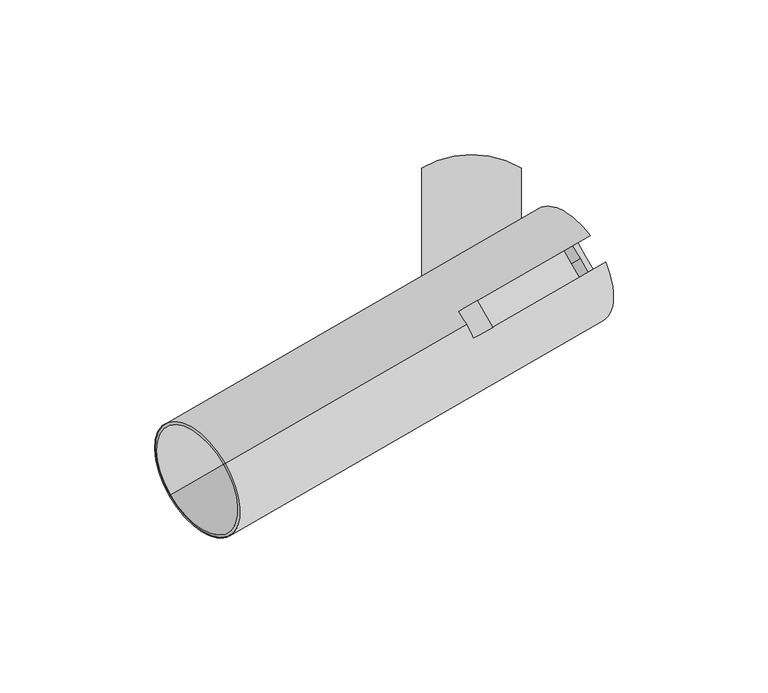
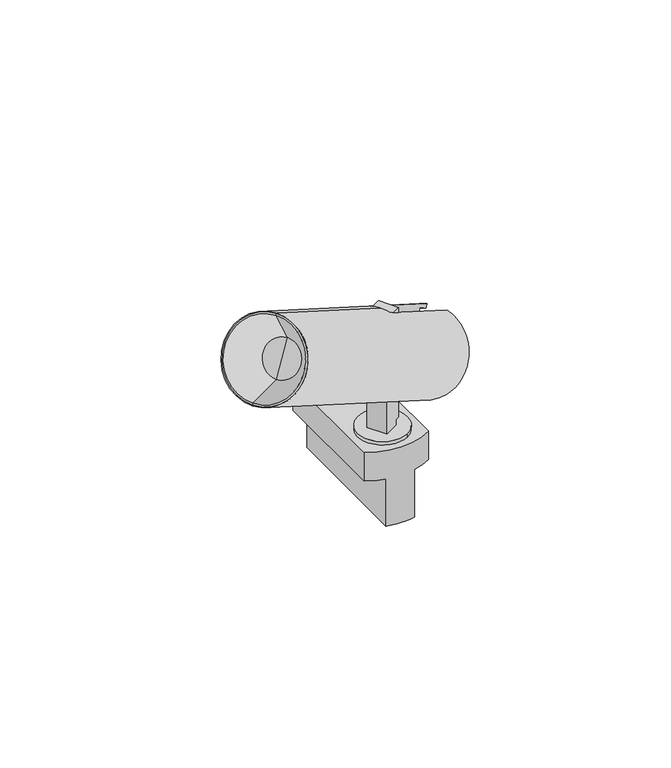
"""IFC4 building model written with IfcOpenShell, lengths in millimetres: light fixture geometry, PIPES T XS : 630lm 7,8W 840 38°."""

from ifc_helpers import new_model, si_unit, point, frame, frame_2d, origin, origin_2d, place, context, project, spatial, polyline, circle_curve, trimmed, segment, composite_curve, outline, extrude, source, transform, mapped, element, save
from ifc_brep_helpers import plane_surface, cylinder_surface, revolved_surface, advanced_brep


def light_fixture_a9e7d7d0(model_context):
    return source(origin(), model_context, "Body", "SolidModel", [
        extrude(outline(composite_curve([segment(polyline([(39.7303383, 0.0), (39.7303383, -8.0), (36.7303383, -8.0), (36.7303383, -10.0), (-21.31827, -10.0), (-21.31827, -2.0)]), True, "CONTINUOUS"), segment(trimmed(circle_curve(frame_2d((-15.691322, -2.0)), 5.626948), [point((-21.31827, -2.0))], [point((-15.691322, 3.626948))], False, "CARTESIAN"), True, "CONTINUOUS"), segment(polyline([(-15.691322, 3.626948), (-9.8735653, 3.626948)]), True, "CONTINUOUS"), segment(trimmed(circle_curve(frame_2d((-17.7182036, -2.2388678)), 9.7952104), [point((-9.8735653, 3.626948))], [point((-8.1822916, 0.0))], False, "CARTESIAN"), True, "CONTINUOUS"), segment(polyline([(-8.1822916, 0.0), (39.7303383, 0.0)]), True, "CONTINUOUS")], self_intersect=False)), frame((-1.830127, -6.830127, 56.5303383), z_axis=(-0.4999999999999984, 0.8660254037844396, 0.0), x_axis=(0.0, 0.0, -1.0)), (0.0, 0.0, 1.0), 10.0),
        extrude(outline(composite_curve([segment(trimmed(circle_curve(origin_2d(), 12.5), [point((-6.25, 10.8253175))], [point((6.25, -10.8253175))], False, "CARTESIAN"), True, "CONTINUOUS"), segment(trimmed(circle_curve(origin_2d(), 12.5), [point((6.25, -10.8253175))], [point((-6.25, 10.8253175))], False, "CARTESIAN"), True, "CONTINUOUS")], self_intersect=False)), frame((0.0, 0.0, 15.0), z_axis=(0.0, 0.0, 1.0), x_axis=(1.0, 0.0, 0.0)), (0.0, 0.0, 1.0), 1.8),
        advanced_brep(
        [(-7.1153658, -15.2862846, -25.0), (-7.1153658, 53.3498174, -25.0), (7.1153658, 53.3498174, -25.0), (7.1153658, -15.2862846, -25.0), (-16.1153658, 49.7317664, 15.0), (-16.1153658, -11.6682336, 15.0), (16.1153658, -11.6682336, 15.0), (16.1153658, 49.7317664, 15.0), (-16.1153658, 49.7317664, 0.0), (-16.1153658, -11.6682336, 0.0), (-7.1153658, -15.2862846, 0.0), (7.1153658, -15.2862846, 0.0), (16.1153658, -11.6682336, 0.0), (16.1153658, 49.7317664, 0.0), (7.1153658, 53.3498174, 0.0), (-7.1153658, 53.3498174, 0.0)],
        [
            (0, 1),
            (1, 2, circle_curve(frame((0.0, 22.6472542, -25.0), z_axis=(0.0, 0.0, -1.0), x_axis=(1.0, 0.0, 0.0)), 31.5162786)),
            (2, 3),
            (3, 0, circle_curve(frame((0.0, 15.4162786, -25.0), z_axis=(0.0, 0.0, -1.0), x_axis=(1.0, 0.0, 0.0)), 31.5162786)),
            (4, 5),
            (5, 6, circle_curve(frame((0.0, 15.4162786, 15.0), z_axis=(0.0, 0.0, 1.0), x_axis=(1.0, 0.0, 0.0)), 31.5162786)),
            (6, 7),
            (7, 4, circle_curve(frame((0.0, 22.6472542, 15.0), z_axis=(0.0, 0.0, 1.0), x_axis=(1.0, 0.0, 0.0)), 31.5162786)),
            (4, 8),
            (8, 9),
            (9, 5),
            (9, 10, circle_curve(frame((0.0, 15.4162786, 0.0), z_axis=(0.0, 0.0, 1.0), x_axis=(1.0, 0.0, 0.0)), 31.5162786)),
            (10, 0),
            (3, 11),
            (11, 12, circle_curve(frame((0.0, 15.4162786, 0.0), z_axis=(0.0, 0.0, 1.0), x_axis=(1.0, 0.0, 0.0)), 31.5162786)),
            (12, 6),
            (12, 13),
            (13, 7),
            (13, 14, circle_curve(frame((0.0, 22.6472542, 0.0), z_axis=(0.0, 0.0, 1.0), x_axis=(1.0, 0.0, 0.0)), 31.5162786)),
            (14, 2),
            (1, 15),
            (15, 8, circle_curve(frame((0.0, 22.6472542, 0.0), z_axis=(0.0, 0.0, 1.0), x_axis=(1.0, 0.0, 0.0)), 31.5162786)),
            (15, 10),
            (11, 14),
        ],
        [
            plane_surface(frame((-16.1153658, -11.6883244, -25.0), z_axis=(0.0, 0.0, -1.0), x_axis=(0.0, 1.0, 0.0))),
            plane_surface(frame((-16.1153658, -11.6883244, 15.0), z_axis=(0.0, 0.0, 1.0), x_axis=(0.0, -1.0, 0.0))),
            plane_surface(frame((-16.1153658, 49.7317664, 15.0), z_axis=(-1.0, 0.0, 0.0), x_axis=(0.0, 0.0, -1.0))),
            cylinder_surface(frame((0.0, 15.4162786, -25.0), z_axis=(0.0, 0.0, 1.0), x_axis=(1.0, 0.0, 0.0)), 31.5162786),
            plane_surface(frame((16.1153658, -11.6682336, 15.0), z_axis=(1.0, 0.0, 0.0), x_axis=(0.0, 0.0, -1.0))),
            cylinder_surface(frame((0.0, 22.6472542, -25.0), z_axis=(0.0, 0.0, 1.0), x_axis=(1.0, 0.0, 0.0)), 31.5162786),
            plane_surface(frame((-7.1153658, 58.6979838, 0.0), z_axis=(0.0, 0.0, -1.0), x_axis=(-1.0, 0.0, 0.0))),
            plane_surface(frame((-7.1153658, -21.3020162, 0.0), z_axis=(-1.0, 0.0, 0.0), x_axis=(0.0, 0.0, -1.0))),
            plane_surface(frame((7.1153658, -11.6883244, 0.0), z_axis=(0.0, 0.0, -1.0), x_axis=(0.0, -1.0, 0.0))),
            plane_surface(frame((7.1153658, 58.6979838, 0.0), z_axis=(1.0, 0.0, 0.0), x_axis=(0.0, 0.0, -1.0))),
        ],
        [
            (0, [[1, 2, 3, 4]]),
            (1, [[5, 6, 7, 8]]),
            (2, [[-5, 9, 10, 11]]),
            (3, [[-6, -11, 12, 13, -4, 14, 15, 16]]),
            (4, [[-7, -16, 17, 18]]),
            (5, [[-8, -18, 19, 20, -2, 21, 22, -9]]),
            (6, [[23, -12, -10, -22]]),
            (7, [[-23, -21, -1, -13]]),
            (8, [[24, -19, -17, -15]]),
            (9, [[-24, -14, -3, -20]]),
        ],
    ),
        advanced_brep(
        [(-8.4150635, 0.9150635, 71.169873), (29.8349365, 22.9987113, 45.669873), (33.0090507, 24.831287, 52.0181014), (37.5090507, 27.4293632, 49.0181014), (38.4035576, 27.945807, 50.8071153), (-4.3464424, 3.264083, 79.3071153), (-3.4150635, -7.7451905, 71.169873), (0.6535576, -5.396171, 79.3071153), (43.4035576, 19.285553, 50.8071153), (42.5090507, 18.7691092, 49.0181014), (38.0090507, 16.171033, 52.0181014), (34.8349365, 14.3384573, 45.669873), (32.3349365, 18.6685843, 45.669873), (-1.5849365, -0.9150635, 79.830127), (-79.5849365, -45.9483845, 131.830127), (-97.77147, -56.4483845, 95.4570601), (22.97853, 13.2666605, 14.9570601), (23.8445554, 13.7666605, 16.6891109), (19.3445554, 11.1685843, 19.6891109), (27.5717968, 15.9185843, 36.1435935), (-79.1333302, -45.6876495, 95.7333395), (-70.4730762, -40.6876495, 113.0538476), (-74.8032032, -43.1876495, 104.3935935)],
        [
            (0, 1),
            (1, 2),
            (2, 3),
            (3, 4),
            (4, 5),
            (5, 0),
            (6, 7),
            (7, 8),
            (8, 9),
            (9, 10),
            (10, 11),
            (11, 6),
            (0, 6),
            (11, 12),
            (12, 1),
            (5, 13, circle_curve(frame((-10.6782032, -6.1650635, 61.6435935), z_axis=(0.7500000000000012, 0.4330127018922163, -0.5000000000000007), x_axis=(0.43301270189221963, 0.25000000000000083, 0.8660254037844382)), 21.0)),
            (13, 7, circle_curve(frame((-10.6782032, -6.1650635, 61.6435935), z_axis=(0.7500000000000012, 0.4330127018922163, -0.5000000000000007), x_axis=(0.43301270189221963, 0.25000000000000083, 0.8660254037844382)), 21.0)),
            (14, 15, circle_curve(frame((-88.6782032, -51.1983845, 113.6435935), z_axis=(0.7500000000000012, 0.4330127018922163, -0.5000000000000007), x_axis=(0.43301270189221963, 0.25000000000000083, 0.8660254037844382)), 21.0)),
            (15, 16),
            (16, 8, circle_curve(frame((32.0717968, 18.5166605, 33.1435935), z_axis=(-0.7500000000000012, -0.4330127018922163, 0.5000000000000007), x_axis=(0.43301270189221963, 0.25000000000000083, 0.8660254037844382)), 21.0)),
            (13, 14),
            (15, 14, circle_curve(frame((-88.6782032, -51.1983845, 113.6435935), z_axis=(0.7500000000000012, 0.4330127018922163, -0.5000000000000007), x_axis=(0.43301270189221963, 0.25000000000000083, 0.8660254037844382)), 21.0)),
            (4, 16, circle_curve(frame((32.0717968, 18.5166605, 33.1435935), z_axis=(-0.7500000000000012, -0.4330127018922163, 0.5000000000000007), x_axis=(0.43301270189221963, 0.25000000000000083, 0.8660254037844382)), 21.0)),
            (16, 17),
            (17, 9, circle_curve(frame((32.0717968, 18.5166605, 33.1435935), z_axis=(-0.7500000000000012, -0.4330127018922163, 0.5000000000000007), x_axis=(0.43301270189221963, 0.25000000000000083, 0.8660254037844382)), 19.0)),
            (3, 17, circle_curve(frame((32.0717968, 18.5166605, 33.1435935), z_axis=(-0.7500000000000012, -0.4330127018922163, 0.5000000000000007), x_axis=(0.43301270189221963, 0.25000000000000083, 0.8660254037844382)), 19.0)),
            (17, 18),
            (18, 10, circle_curve(frame((27.5717968, 15.9185843, 36.1435935), z_axis=(-0.7500000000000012, -0.4330127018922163, 0.5000000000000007), x_axis=(0.43301270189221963, 0.25000000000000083, 0.8660254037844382)), 19.0)),
            (2, 18, circle_curve(frame((27.5717968, 15.9185843, 36.1435935), z_axis=(-0.7500000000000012, -0.4330127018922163, 0.5000000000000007), x_axis=(0.43301270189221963, 0.25000000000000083, 0.8660254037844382)), 19.0)),
            (18, 19),
            (19, 12),
            (20, 21, circle_curve(frame((-74.8032032, -43.1876495, 104.3935935), z_axis=(-0.7500000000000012, -0.4330127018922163, 0.5000000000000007), x_axis=(0.43301270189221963, 0.25000000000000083, 0.8660254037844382)), 10.0)),
            (21, 22),
            (22, 20),
            (21, 20, circle_curve(frame((-74.8032032, -43.1876495, 104.3935935), z_axis=(-0.7500000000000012, -0.4330127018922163, 0.5000000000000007), x_axis=(0.43301270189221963, 0.25000000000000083, 0.8660254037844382)), 10.0)),
            (14, 21),
            (20, 15),
        ],
        [
            plane_surface(frame((-8.4150635, 0.9150635, 71.169873), z_axis=(0.49999999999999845, -0.8660254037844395, 0.0), x_axis=(-0.7500000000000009, -0.433012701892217, 0.5000000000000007))),
            plane_surface(frame((-3.4150635, -7.7451905, 71.169873), z_axis=(-0.49999999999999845, 0.8660254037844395, 0.0), x_axis=(0.7500000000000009, 0.433012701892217, -0.5000000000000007))),
            plane_surface(frame((-3.4150635, -7.7451905, 71.169873), z_axis=(0.4330127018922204, 0.24999999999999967, 0.8660254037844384), x_axis=(-0.4999999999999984, 0.8660254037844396, 0.0))),
            plane_surface(frame((5.2451905, -2.7451905, 88.4903811), z_axis=(0.7500000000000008, 0.43301270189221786, -0.5000000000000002), x_axis=(-0.4999999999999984, 0.8660254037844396, 0.0))),
            cylinder_surface(frame((38.4110825, 22.1766488, 28.9174031), z_axis=(0.7500000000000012, 0.4330127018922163, -0.5000000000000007), x_axis=(0.43301270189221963, 0.25000000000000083, 0.8660254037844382)), 21.0),
            plane_surface(frame((32.0717968, 18.5166605, 33.1435935), z_axis=(0.7500000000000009, 0.433012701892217, -0.5000000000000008), x_axis=(0.43301270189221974, 0.2500000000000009, 0.8660254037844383))),
            revolved_surface(polyline([(40.29903816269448, 23.266660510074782, 49.59807622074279), (35.79903810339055, 20.668584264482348, 52.598076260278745)]), (38.4110825, 22.1766488, 28.9174031), (0.7500000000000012, 0.4330127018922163, -0.5000000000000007)),
            plane_surface(frame((27.5717968, 15.9185843, 36.1435935), z_axis=(0.7500000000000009, 0.433012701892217, -0.5000000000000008), x_axis=(0.43301270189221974, 0.2500000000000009, 0.8660254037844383))),
            plane_surface(frame((-74.8032032, -43.1876495, 104.3935935), z_axis=(-0.7500000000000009, -0.433012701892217, 0.5000000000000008), x_axis=(0.43301270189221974, 0.2500000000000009, 0.8660254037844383))),
            revolved_surface(polyline([(-70.4730762, -40.6876495, 113.0538476), (-79.5849365, -45.9483845, 131.830127)]), (38.4110825, 22.1766488, 28.9174031), (0.7500000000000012, 0.4330127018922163, -0.5000000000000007)),
        ],
        [
            (0, [[1, 2, 3, 4, 5, 6]]),
            (1, [[7, 8, 9, 10, 11, 12]]),
            (2, [[13, -12, 14, 15, -1]]),
            (3, [[-13, -6, 16, 17, -7]]),
            (4, [[18, 19, 20, -8, -17, 21]]),
            (4, [[-19, 22, -21, -16, -5, 23]]),
            (5, [[24, 25, -9, -20]]),
            (5, [[-24, -23, -4, 26]]),
            (6, [[27, 28, -10, -25]]),
            (6, [[-27, -26, -3, 29]]),
            (7, [[30, 31, -14, -11, -28]]),
            (7, [[-30, -29, -2, -15, -31]]),
            (8, [[32, 33, 34]]),
            (8, [[-33, 35, -34]]),
            (9, [[-18, 36, -32, 37]]),
            (9, [[-22, -37, -35, -36]]),
        ],
    ),
        advanced_brep(
        [(32.8349365, 24.7307621, 43.669873), (34.3349365, 25.5967875, 42.669873), (36.6045405, 26.907144, 47.209081), (35.1045405, 26.0411186, 48.209081), (39.3349365, 16.9365335, 42.669873), (37.8349365, 16.0705081, 43.669873), (40.1045405, 17.3808646, 48.209081), (41.6045405, 18.24689, 47.209081), (35.3349365, 20.4006351, 43.669873), (36.8349365, 21.2666605, 42.669873), (30.5717968, 17.6506351, 34.1435935), (23.2133333, 13.4022242, 19.4266667), (24.7133333, 14.2682497, 18.4266667), (32.0717968, 18.5166605, 33.1435935)],
        [
            (0, 1),
            (1, 2),
            (2, 3),
            (3, 0),
            (4, 5),
            (5, 6),
            (6, 7),
            (7, 4),
            (0, 8),
            (8, 5),
            (4, 9),
            (9, 1),
            (10, 11),
            (11, 6, circle_curve(frame((30.5717968, 17.6506351, 34.1435935), z_axis=(-0.7500000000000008, -0.4330127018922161, 0.5000000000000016), x_axis=(0.4330127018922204, 0.2500000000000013, 0.8660254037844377)), 16.9936434)),
            (8, 10),
            (3, 11, circle_curve(frame((30.5717968, 17.6506351, 34.1435935), z_axis=(-0.7500000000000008, -0.4330127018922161, 0.5000000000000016), x_axis=(0.4330127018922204, 0.2500000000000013, 0.8660254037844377)), 16.9936434)),
            (11, 12),
            (12, 7, circle_curve(frame((32.0717968, 18.5166605, 33.1435935), z_axis=(-0.7500000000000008, -0.4330127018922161, 0.5000000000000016), x_axis=(0.4330127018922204, 0.2500000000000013, 0.8660254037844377)), 16.9936434)),
            (2, 12, circle_curve(frame((32.0717968, 18.5166605, 33.1435935), z_axis=(-0.7500000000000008, -0.4330127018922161, 0.5000000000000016), x_axis=(0.4330127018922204, 0.2500000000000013, 0.8660254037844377)), 16.9936434)),
            (12, 13),
            (13, 9),
        ],
        [
            plane_surface(frame((-8.4150635, 0.9150635, 71.169873), z_axis=(0.49999999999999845, -0.8660254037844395, 0.0), x_axis=(-0.7500000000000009, -0.433012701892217, 0.5000000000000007))),
            plane_surface(frame((-3.4150635, -7.7451905, 71.169873), z_axis=(-0.49999999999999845, 0.8660254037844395, 0.0), x_axis=(0.7500000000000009, 0.433012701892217, -0.5000000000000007))),
            plane_surface(frame((-3.4150635, -7.7451905, 71.169873), z_axis=(0.4330127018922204, 0.24999999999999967, 0.8660254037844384), x_axis=(-0.4999999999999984, 0.8660254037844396, 0.0))),
            plane_surface(frame((30.5717968, 17.6506351, 34.1435935), z_axis=(-0.7500000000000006, -0.4330127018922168, 0.5000000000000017), x_axis=(0.4330127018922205, 0.2500000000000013, 0.8660254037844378))),
            cylinder_surface(frame((-66.9639175, -38.6616358, 99.1674031), z_axis=(0.7500000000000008, 0.4330127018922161, -0.5000000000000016), x_axis=(0.4330127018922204, 0.2500000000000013, 0.8660254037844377)), 16.9936434),
            plane_surface(frame((32.0717968, 18.5166605, 33.1435935), z_axis=(0.7500000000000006, 0.4330127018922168, -0.5000000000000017), x_axis=(0.4330127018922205, 0.2500000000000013, 0.8660254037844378))),
        ],
        [
            (0, [[1, 2, 3, 4]]),
            (1, [[5, 6, 7, 8]]),
            (2, [[-1, 9, 10, -5, 11, 12]]),
            (3, [[13, 14, -6, -10, 15]]),
            (3, [[-13, -15, -9, -4, 16]]),
            (4, [[17, 18, -7, -14]]),
            (4, [[-17, -16, -3, 19]]),
            (5, [[20, 21, -11, -8, -18]]),
            (5, [[-20, -19, -2, -12, -21]]),
        ],
    ),
        advanced_brep(
        [(-79.6370222, -45.9784562, 96.7259555), (-71.4693842, -41.2628682, 113.0612316), (-75.5532032, -43.6206622, 104.8935935), (-97.267695, -56.1575299, 96.4646101), (-80.0887115, -46.2392391, 130.822577), (-97.77147, -56.4483845, 95.4570601), (-79.5849365, -45.9483845, 131.830127), (-79.1333302, -45.6876495, 95.7333395), (-70.4730762, -40.6876495, 113.0538476), (-74.8032032, -43.1876495, 104.3935935)],
        [
            (0, 1, circle_curve(frame((-75.5532032, -43.6206622, 104.8935935), z_axis=(-0.7500000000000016, -0.4330127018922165, 0.5000000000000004), x_axis=(0.43301270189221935, 0.25000000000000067, 0.8660254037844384)), 9.431176)),
            (1, 2),
            (2, 0),
            (1, 0, circle_curve(frame((-75.5532032, -43.6206622, 104.8935935), z_axis=(-0.7500000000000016, -0.4330127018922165, 0.5000000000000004), x_axis=(0.43301270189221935, 0.25000000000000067, 0.8660254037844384)), 9.431176)),
            (3, 4, circle_curve(frame((-88.6782032, -51.1983845, 113.6435935), z_axis=(-0.7500000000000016, -0.4330127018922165, 0.5000000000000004), x_axis=(0.43301270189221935, 0.25000000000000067, 0.8660254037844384)), 19.8365814)),
            (4, 1),
            (0, 3),
            (4, 3, circle_curve(frame((-88.6782032, -51.1983845, 113.6435935), z_axis=(-0.7500000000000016, -0.4330127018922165, 0.5000000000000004), x_axis=(0.43301270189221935, 0.25000000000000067, 0.8660254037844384)), 19.8365814)),
            (5, 6, circle_curve(frame((-88.6782032, -51.1983845, 113.6435935), z_axis=(-0.7500000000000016, -0.4330127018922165, 0.5000000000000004), x_axis=(0.43301270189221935, 0.25000000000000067, 0.8660254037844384)), 21.0)),
            (6, 4),
            (3, 5),
            (6, 5, circle_curve(frame((-88.6782032, -51.1983845, 113.6435935), z_axis=(-0.7500000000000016, -0.4330127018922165, 0.5000000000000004), x_axis=(0.43301270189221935, 0.25000000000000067, 0.8660254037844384)), 21.0)),
            (7, 8, circle_curve(frame((-74.8032032, -43.1876495, 104.3935935), z_axis=(-0.7500000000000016, -0.4330127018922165, 0.5000000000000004), x_axis=(0.43301270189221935, 0.25000000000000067, 0.8660254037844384)), 10.0)),
            (8, 6),
            (5, 7),
            (8, 7, circle_curve(frame((-74.8032032, -43.1876495, 104.3935935), z_axis=(-0.7500000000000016, -0.4330127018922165, 0.5000000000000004), x_axis=(0.43301270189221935, 0.25000000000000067, 0.8660254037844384)), 10.0)),
            (9, 8),
            (7, 9),
        ],
        [
            plane_surface(frame((-75.5532032, -43.6206622, 104.8935935), z_axis=(-0.7500000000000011, -0.43301270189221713, 0.5000000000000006), x_axis=(0.43301270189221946, 0.2500000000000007, 0.8660254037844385))),
            revolved_surface(polyline([(-71.4693842, -41.2628682, 113.0612316), (-80.0887115, -46.2392391, 130.822577)]), (53.4110825, 30.8369028, 18.9174031), (0.7500000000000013, 0.4330127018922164, -0.5000000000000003)),
            plane_surface(frame((-88.6782032, -51.1983845, 113.6435935), z_axis=(-0.7500000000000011, -0.43301270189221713, 0.5000000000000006), x_axis=(0.43301270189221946, 0.2500000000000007, 0.8660254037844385))),
            revolved_surface(polyline([(-79.5849365, -45.9483845, 131.830127), (-70.4730762, -40.6876495, 113.0538476)]), (53.4110825, 30.8369028, 18.9174031), (0.7500000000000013, 0.4330127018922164, -0.5000000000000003)),
            plane_surface(frame((-74.8032032, -43.1876495, 104.3935935), z_axis=(0.7500000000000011, 0.43301270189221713, -0.5000000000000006), x_axis=(0.43301270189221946, 0.2500000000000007, 0.8660254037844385))),
        ],
        [
            (0, [[1, 2, 3]]),
            (0, [[4, -3, -2]]),
            (1, [[5, 6, -1, 7]]),
            (1, [[8, -7, -4, -6]]),
            (2, [[9, 10, -5, 11]]),
            (2, [[12, -11, -8, -10]]),
            (3, [[13, 14, -9, 15]]),
            (3, [[16, -15, -12, -14]]),
            (4, [[17, -13, 18]]),
            (4, [[-18, -16, -17]]),
        ],
    ),
    ])


if __name__ == "__main__":
    model = new_model("IFC4")
    model_context = context("Model", 3, world=origin())
    ifc_project = project(units=[si_unit("LENGTHUNIT", "METRE", prefix="MILLI")], contexts=[model_context])
    site = spatial("IfcSite", under=ifc_project)
    building = spatial("IfcBuilding", under=site)
    placement = place(None, origin())
    light_fixture_shape = light_fixture_a9e7d7d0(model_context)
    element("IfcLightFixture", 1, ObjectType="PIPES T XS : 630lm 7,8W 840 38°", at=placement, inside=building, context=model_context, shape_type="MappedRepresentation", body=[
        mapped(light_fixture_shape, transform((0.0, 0.0, 0.0), x_axis=(1.0, 0.0, 0.0), y_axis=(0.0, 1.0, 0.0), z_axis=(0.0, 0.0, 1.0))),
    ])
    save(model, "model.ifc")
